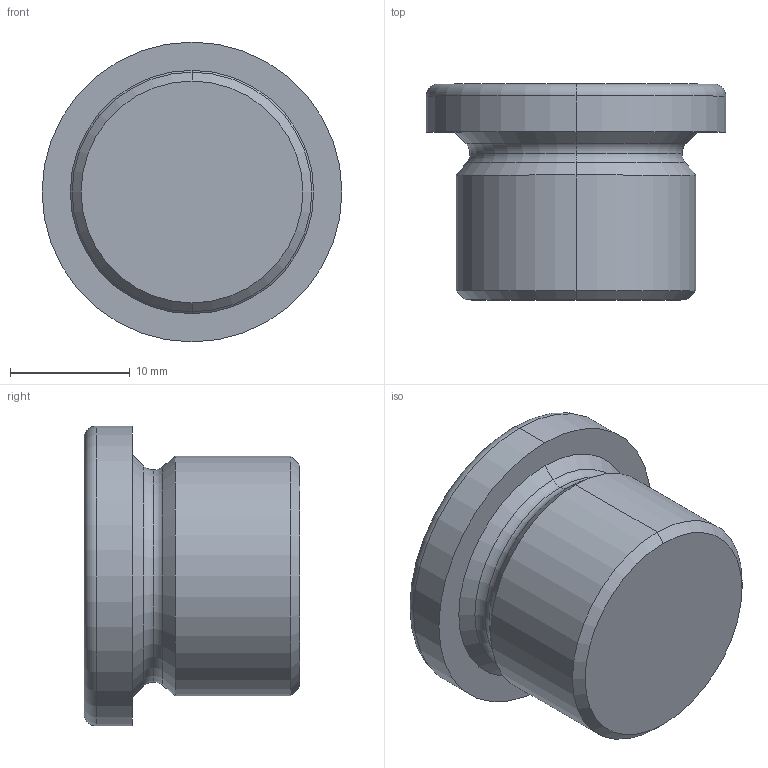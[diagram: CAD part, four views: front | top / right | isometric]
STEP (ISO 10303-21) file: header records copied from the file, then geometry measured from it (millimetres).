
FILE_DESCRIPTION (( 'STEP AP214' ), '1' );
FILE_NAME ('908-ST-M20x1,5-A.step', '2024-12-19T09:17:17', ( '' ), ( '' ), 'SwSTEP 2.0', 'SolidWorks 2022', '' );
FILE_SCHEMA (( 'AUTOMOTIVE_DESIGN' ));
Length unit declared in the file: millimetre
Products named in the file (1): 908-ST-M20x1,5-A
Bounding box: 25 x 18 x 25 mm (x, y, z)
Volume: 5531.1 mm3; surface area: 2400.1 mm2
Topology: 1 solids, 1 shells, 26 faces, 54 edges, 32 vertices
Faces by surface type: plane 10, torus 6, cone 6, cylinder 4
Entity records: 744 total; most frequent: DIRECTION 134, CARTESIAN_POINT 113, ORIENTED_EDGE 108, EDGE_CURVE 54, AXIS2_PLACEMENT_3D 53, VERTEX_POINT 32, VECTOR 28, EDGE_LOOP 28
